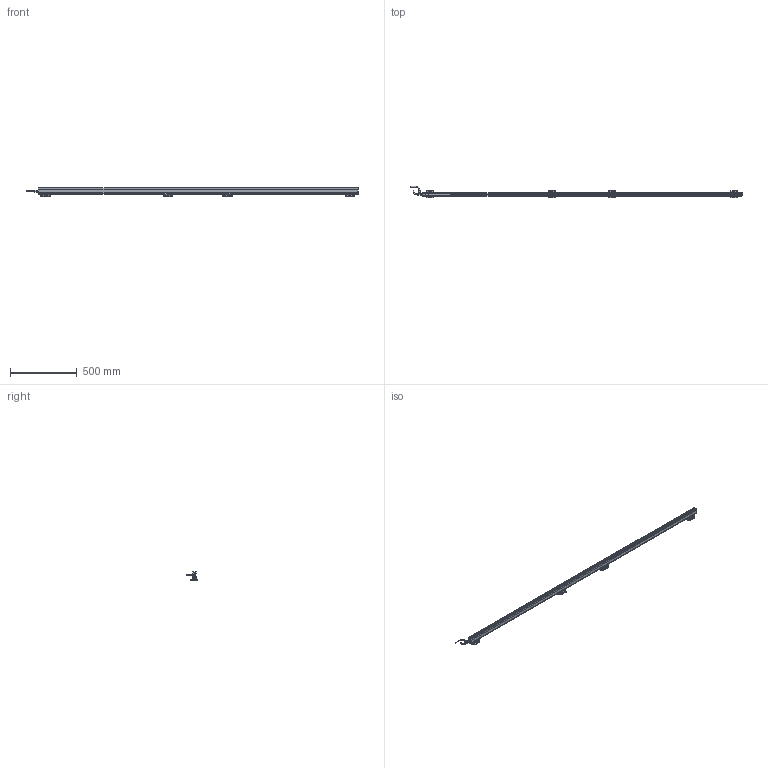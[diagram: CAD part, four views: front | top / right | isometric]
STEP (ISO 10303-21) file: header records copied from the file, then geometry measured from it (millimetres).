
FILE_DESCRIPTION(('Bauteilbeschreibung','HiCAD-Model','HiCAD-STEP-TRANSLATION','Bauteilbeschreibung'),'2;1');
FILE_NAME('PERFORMAXIQEASY_2310-2400_3D.STP','2014-03-05T12:53:43+00:00',('Konstrukteur'),('Konstrukteur Firma GmbH'),' HiCAD 2011, Step 1600.0 ','HiCAD 2011','confidential');
FILE_SCHEMA(('AUTOMOTIVE_DESIGN { 1 2 10303 214 0 1 1 1 }'));
Products named in the file (46): PERFORMAXIQEASY_2310_2400_3D; A_PERFORMAX IQ EASY 2310_2400; A_PERFORMAX IQ EASY SPEED; A_CAP DE; A_CAP CE_5; LED_2C_3MM; LED02C03MM; A519020315_CONNECTOR APPLIANCE; A_INSERT; A_CONTACTS; A_HOUSING; A_PROFILE; A_POTTING; PIN; PIN0; A532000100_BRACKET BARS_ MOUNT; A_SIDE PIECE; A0SIDE0PIECE; A_BRACKET SMALL; A_SLIDE PIECE; A5320001000BRACKET0BARS00MOUNT; A0SIDE0PIECE0; A0SIDE0PIECE1; A0BRACKET0SMALL; A0SLIDE0PIECE; A5320001000BRACKET0BARS00MOUNT0; A0SIDE0PIECE2; A0SIDE0PIECE3; A0BRACKET0SMALL0; A0SLIDE0PIECE0; A0SIDE0PIECE4; A0SIDE0PIECE5; A0BRACKET0SMALL1; A0SLIDE0PIECE1; A_CONNECTOR STRAIGHT; EXTRUDED SOLID_0; DRAAD GEBOGEN; REVOLVED SOLID_1; REVOLVED SOLID_3; A_CONNECTOR ANGLED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
Assembly tree (45 placements, depth 5):
  PERFORMAXIQEASY_2310_2400_3D
    A_PERFORMAX IQ EASY 2310_2400
      A_PERFORMAX IQ EASY SPEED
        A_CAP DE
        A_CAP CE_5
        LED_2C_3MM
        LED02C03MM
        A519020315_CONNECTOR APPLIANCE
          A_INSERT
          A_CONTACTS
          A_HOUSING
        A_PROFILE
        A_POTTING
        PIN
        PIN0
      A532000100_BRACKET BARS_ MOUNT
        A_SIDE PIECE
        A0SIDE0PIECE
        A_BRACKET SMALL
        A_SLIDE PIECE
      A5320001000BRACKET0BARS00MOUNT
        A0SIDE0PIECE0
        A0SIDE0PIECE1
        A0BRACKET0SMALL
        A0SLIDE0PIECE
      A5320001000BRACKET0BARS00MOUNT0
        A0SIDE0PIECE2
        A0SIDE0PIECE3
        A0BRACKET0SMALL0
        A0SLIDE0PIECE0
      A5320001000BRACKET0BARS00MOUNT0
        A0SIDE0PIECE4
        A0SIDE0PIECE5
        A0BRACKET0SMALL1
        A0SLIDE0PIECE1
      A_CONNECTOR STRAIGHT
        EXTRUDED SOLID_0
        DRAAD GEBOGEN
        REVOLVED SOLID_1
        REVOLVED SOLID_3
      A_CONNECTOR ANGLED
        REVOLVED0SOLID01
        EXTRUDED0SOLID00
        C_EDGE SWEEP_0
        REVOLVED SOLID_2
        REVOLVED0SOLID03
Bounding box: 2477.89 x 84.28 x 63.13 mm (x, y, z)
Volume: 2481749.5 mm3; surface area: 612384.9 mm2
Topology: 41 solids, 41 shells, 3447 faces, 8839 edges, 5258 vertices
Faces by surface type: cylinder 1457, plane 1315, sphere 222, torus 205, bspline 168, cone 80
Full cylindrical faces by diameter (mm): 0.8 x10, 1 x5, 2.387 x8, 3 x19, 3.1 x1, 4.2 x2, 5 x4, 5.5 x20, 8 x2, 8.2 x1, 8.4 x2, 8.945 x1, 9 x2, 10.2 x1, 10.5 x3, 11 x1, 12 x3, 12.8 x1, 13.8 x4, 14.5 x3
Entity records: 159221 total; most frequent: CARTESIAN_POINT 37152, DIRECTION 17145, ORIENTED_EDGE 16748, EDGE_CURVE 8374, COLOUR_RGB 7959, PRESENTATION_STYLE_ASSIGNMENT 7959, OVER_RIDING_STYLED_ITEM 7923, CURVE_STYLE 7918
